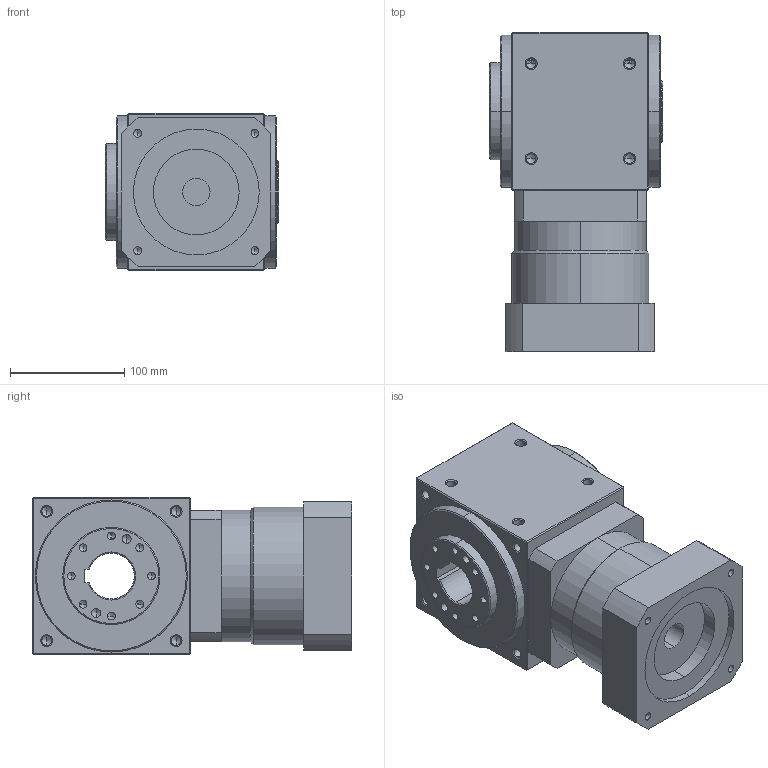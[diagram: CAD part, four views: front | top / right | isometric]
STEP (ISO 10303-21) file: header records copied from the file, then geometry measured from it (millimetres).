
FILE_DESCRIPTION (( 'STEP AP214' ), '1' );
FILE_NAME ('RXW135AS-L2-RFK-22-110-145-m8.STEP', '2020-11-27T05:25:57', ( '微软用户' ), ( '微软中国' ), 'SwSTEP 2.0', 'SolidWorks 2014', '' );
FILE_SCHEMA (( 'AUTOMOTIVE_DESIGN' ));
Length unit declared in the file: millimetre
Products named in the file (2): RXW135AS-L2-RFK-22-110-145-m8
Bounding box: 151.5 x 279 x 138 mm (x, y, z)
Volume: 4083089.1 mm3; surface area: 255335.4 mm2
Topology: 2 solids, 2 shells, 275 faces, 662 edges, 358 vertices
Faces by surface type: cone 124, cylinder 99, plane 52
Entity records: 9976 total; most frequent: DIRECTION 1396, CARTESIAN_POINT 1353, ORIENTED_EDGE 1188, EDGE_CURVE 594, AXIS2_PLACEMENT_3D 545, VERTEX_POINT 358, EDGE_LOOP 320, LINE 306
